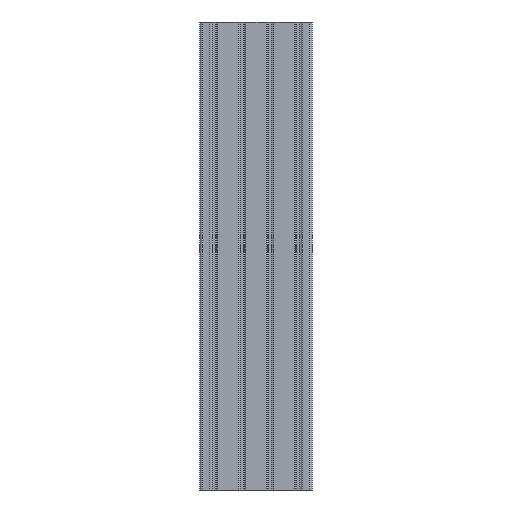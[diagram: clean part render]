
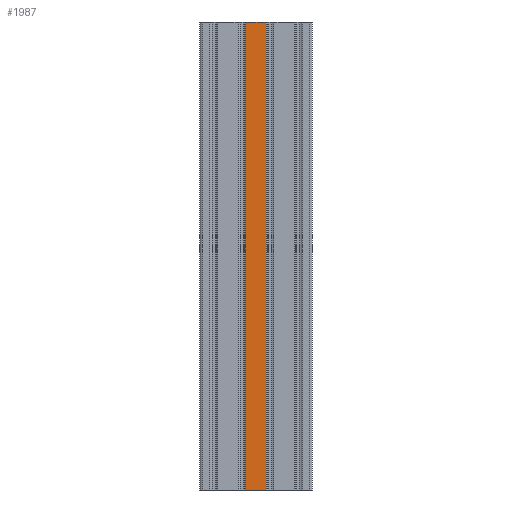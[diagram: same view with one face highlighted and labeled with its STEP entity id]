
A CAD part, front view. The second image highlights one B-rep face of the part: STEP entity #1987.
In plain terms, the highlighted planar face has unit normal (0, -1, 0).
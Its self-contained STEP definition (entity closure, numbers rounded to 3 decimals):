
#1369 = EDGE_CURVE ( 'NONE', #1373, #1376, #4987, .T. ) ;
#1373 = VERTEX_POINT ( 'NONE', #4986 ) ;
#1376 = VERTEX_POINT ( 'NONE', #5040 ) ;
#1933 = ORIENTED_EDGE ( 'NONE', *, *, #1369, .F. ) ;
#1956 = ORIENTED_EDGE ( 'NONE', *, *, #2217, .T. ) ;
#1970 = EDGE_LOOP ( 'NONE', ( #1956, #2014, #1933, #1992 ) ) ;
#1986 = EDGE_CURVE ( 'NONE', #1376, #2214, #6092, .T. ) ;
#1987 = ADVANCED_FACE ( 'NONE', ( #6081 ), #6046, .F. ) ;
#1992 = ORIENTED_EDGE ( 'NONE', *, *, #1995, .T. ) ;
#1995 = EDGE_CURVE ( 'NONE', #1373, #2045, #6087, .T. ) ;
#2014 = ORIENTED_EDGE ( 'NONE', *, *, #1986, .F. ) ;
#2045 = VERTEX_POINT ( 'NONE', #6227 ) ;
#2214 = VERTEX_POINT ( 'NONE', #6494 ) ;
#2217 = EDGE_CURVE ( 'NONE', #2045, #2214, #6479, .T. ) ;
#4982 = CARTESIAN_POINT ( 'NONE',  ( -23636.488, -19478.557, 500. ) ) ;
#4986 = CARTESIAN_POINT ( 'NONE',  ( -23636.488, -19478.557, 500. ) ) ;
#4987 = LINE ( 'NONE', #4982, #5039 ) ;
#5038 = DIRECTION ( 'NONE',  ( 1., 0., 0. ) ) ;
#5039 = VECTOR ( 'NONE', #5038, 1000. ) ;
#5040 = CARTESIAN_POINT ( 'NONE',  ( -23614.838, -19478.557, 500. ) ) ;
#6046 = PLANE ( 'NONE',  #6078 ) ;
#6074 = DIRECTION ( 'NONE',  ( 0., 0., 1. ) ) ;
#6078 = AXIS2_PLACEMENT_3D ( 'NONE', #6090, #6093, #6074 ) ;
#6079 = DIRECTION ( 'NONE',  ( 0., 0., -1. ) ) ;
#6080 = VECTOR ( 'NONE', #6079, 1000. ) ;
#6081 = FACE_OUTER_BOUND ( 'NONE', #1970, .T. ) ;
#6082 = CARTESIAN_POINT ( 'NONE',  ( -23614.838, -19478.557, 500. ) ) ;
#6087 = LINE ( 'NONE', #6120, #6119 ) ;
#6090 = CARTESIAN_POINT ( 'NONE',  ( -23636.488, -19478.557, 500. ) ) ;
#6092 = LINE ( 'NONE', #6082, #6080 ) ;
#6093 = DIRECTION ( 'NONE',  ( 0., 1., 0. ) ) ;
#6118 = DIRECTION ( 'NONE',  ( 0., 0., -1. ) ) ;
#6119 = VECTOR ( 'NONE', #6118, 1000. ) ;
#6120 = CARTESIAN_POINT ( 'NONE',  ( -23636.488, -19478.557, 500. ) ) ;
#6227 = CARTESIAN_POINT ( 'NONE',  ( -23636.488, -19478.557, 0. ) ) ;
#6476 = DIRECTION ( 'NONE',  ( 1., 0., 0. ) ) ;
#6477 = VECTOR ( 'NONE', #6476, 1000. ) ;
#6478 = CARTESIAN_POINT ( 'NONE',  ( -23636.488, -19478.557, 0. ) ) ;
#6479 = LINE ( 'NONE', #6478, #6477 ) ;
#6494 = CARTESIAN_POINT ( 'NONE',  ( -23614.838, -19478.557, 0. ) ) ;
